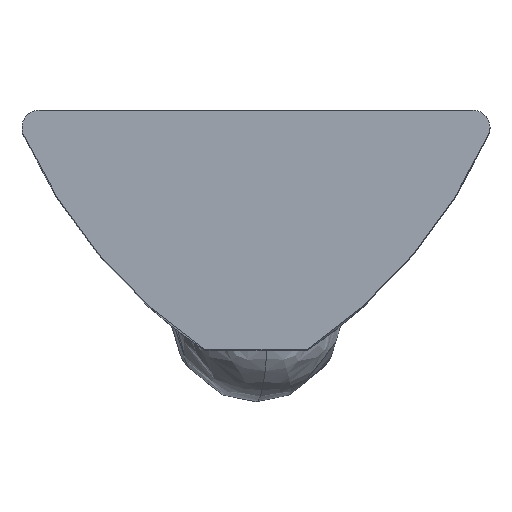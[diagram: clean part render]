
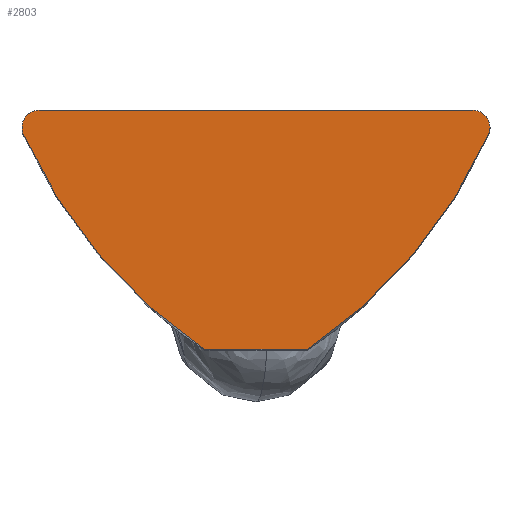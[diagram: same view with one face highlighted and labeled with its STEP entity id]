
A CAD part, top view. The second image highlights one B-rep face of the part: STEP entity #2803.
In plain terms, the highlighted planar face has unit normal (0, 0, 1).
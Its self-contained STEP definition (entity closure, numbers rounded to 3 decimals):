
#4 = EDGE_CURVE ( 'NONE', #2110, #2390, #2755, .T. ) ;
#57 = EDGE_CURVE ( 'NONE', #2349, #2604, #3827, .T. ) ;
#215 = VECTOR ( 'NONE', #1953, 1000. ) ;
#406 = AXIS2_PLACEMENT_3D ( 'NONE', #2399, #2485, #2773 ) ;
#409 = CARTESIAN_POINT ( 'NONE',  ( -48.003, 11.241, 34.168 ) ) ;
#465 = DIRECTION ( 'NONE',  ( 0., 0., -1. ) ) ;
#500 = ORIENTED_EDGE ( 'NONE', *, *, #1106, .F. ) ;
#608 = CIRCLE ( 'NONE', #406, 15. ) ;
#714 = CARTESIAN_POINT ( 'NONE',  ( -61.159, 11.036, 34.168 ) ) ;
#728 = CARTESIAN_POINT ( 'NONE',  ( -47.503, 11.241, 34.168 ) ) ;
#757 = CARTESIAN_POINT ( 'NONE',  ( -48.003, 11.741, 34.168 ) ) ;
#1067 = DIRECTION ( 'NONE',  ( 0., 0., -1. ) ) ;
#1106 = EDGE_CURVE ( 'NONE', #2349, #3860, #3847, .T. ) ;
#1154 = CARTESIAN_POINT ( 'NONE',  ( -48.003, 11.241, 34.168 ) ) ;
#1217 = DIRECTION ( 'NONE',  ( 1., 0., 0. ) ) ;
#1219 = AXIS2_PLACEMENT_3D ( 'NONE', #3608, #1067, #2625 ) ;
#1354 = LINE ( 'NONE', #2653, #3823 ) ;
#1361 = ORIENTED_EDGE ( 'NONE', *, *, #3869, .F. ) ;
#1480 = CIRCLE ( 'NONE', #1219, 0.5 ) ;
#1669 = CIRCLE ( 'NONE', #3746, 0.5 ) ;
#1696 = EDGE_CURVE ( 'NONE', #2390, #2604, #1480, .T. ) ;
#1743 = ORIENTED_EDGE ( 'NONE', *, *, #57, .T. ) ;
#1792 = CARTESIAN_POINT ( 'NONE',  ( -48.003, 11.241, 34.168 ) ) ;
#1953 = DIRECTION ( 'NONE',  ( -1., 0., 0. ) ) ;
#1994 = CARTESIAN_POINT ( 'NONE',  ( -47.547, 11.036, 34.168 ) ) ;
#2029 = AXIS2_PLACEMENT_3D ( 'NONE', #409, #465, #3630 ) ;
#2110 = VERTEX_POINT ( 'NONE', #3342 ) ;
#2316 = PLANE ( 'NONE',  #2029 ) ;
#2325 = DIRECTION ( 'NONE',  ( -1., 0., 0. ) ) ;
#2349 = VERTEX_POINT ( 'NONE', #3884 ) ;
#2390 = VERTEX_POINT ( 'NONE', #714 ) ;
#2399 = CARTESIAN_POINT ( 'NONE',  ( -61.229, 17.185, 34.168 ) ) ;
#2485 = DIRECTION ( 'NONE',  ( 0., 0., -1. ) ) ;
#2541 = DIRECTION ( 'NONE',  ( 1., 0., 0. ) ) ;
#2561 = CARTESIAN_POINT ( 'NONE',  ( -47.477, 17.185, 34.168 ) ) ;
#2604 = VERTEX_POINT ( 'NONE', #3005 ) ;
#2625 = DIRECTION ( 'NONE',  ( 1., 0., 0. ) ) ;
#2653 = CARTESIAN_POINT ( 'NONE',  ( -48.003, 4.741, 34.168 ) ) ;
#2713 = VERTEX_POINT ( 'NONE', #3396 ) ;
#2724 = DIRECTION ( 'NONE',  ( 0., 0., -1. ) ) ;
#2755 = CIRCLE ( 'NONE', #3570, 15. ) ;
#2773 = DIRECTION ( 'NONE',  ( 1., 0., 0. ) ) ;
#2803 = ADVANCED_FACE ( 'NONE', ( #3287 ), #2316, .F. ) ;
#2850 = VERTEX_POINT ( 'NONE', #1994 ) ;
#3005 = CARTESIAN_POINT ( 'NONE',  ( -60.703, 11.741, 34.168 ) ) ;
#3069 = ORIENTED_EDGE ( 'NONE', *, *, #3646, .F. ) ;
#3287 = FACE_OUTER_BOUND ( 'NONE', #4110, .T. ) ;
#3342 = CARTESIAN_POINT ( 'NONE',  ( -55.853, 4.741, 34.168 ) ) ;
#3396 = CARTESIAN_POINT ( 'NONE',  ( -52.853, 4.741, 34.168 ) ) ;
#3399 = ORIENTED_EDGE ( 'NONE', *, *, #1696, .F. ) ;
#3570 = AXIS2_PLACEMENT_3D ( 'NONE', #2561, #3797, #2541 ) ;
#3608 = CARTESIAN_POINT ( 'NONE',  ( -60.703, 11.241, 34.168 ) ) ;
#3630 = DIRECTION ( 'NONE',  ( -1., 0., 0. ) ) ;
#3646 = EDGE_CURVE ( 'NONE', #3860, #2850, #1669, .T. ) ;
#3692 = DIRECTION ( 'NONE',  ( 0., 0., -1. ) ) ;
#3746 = AXIS2_PLACEMENT_3D ( 'NONE', #1154, #2724, #1217 ) ;
#3764 = AXIS2_PLACEMENT_3D ( 'NONE', #1792, #3692, #4028 ) ;
#3797 = DIRECTION ( 'NONE',  ( 0., 0., -1. ) ) ;
#3823 = VECTOR ( 'NONE', #2325, 1000. ) ;
#3827 = LINE ( 'NONE', #757, #215 ) ;
#3847 = CIRCLE ( 'NONE', #3764, 0.5 ) ;
#3860 = VERTEX_POINT ( 'NONE', #728 ) ;
#3869 = EDGE_CURVE ( 'NONE', #2713, #2110, #1354, .T. ) ;
#3884 = CARTESIAN_POINT ( 'NONE',  ( -48.003, 11.741, 34.168 ) ) ;
#3966 = ORIENTED_EDGE ( 'NONE', *, *, #4, .F. ) ;
#4028 = DIRECTION ( 'NONE',  ( 1., 0., 0. ) ) ;
#4045 = ORIENTED_EDGE ( 'NONE', *, *, #4083, .F. ) ;
#4083 = EDGE_CURVE ( 'NONE', #2850, #2713, #608, .T. ) ;
#4110 = EDGE_LOOP ( 'NONE', ( #500, #1743, #3399, #3966, #1361, #4045, #3069 ) ) ;
